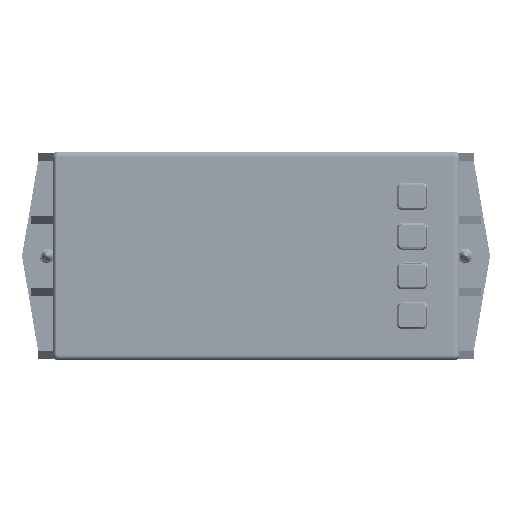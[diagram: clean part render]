
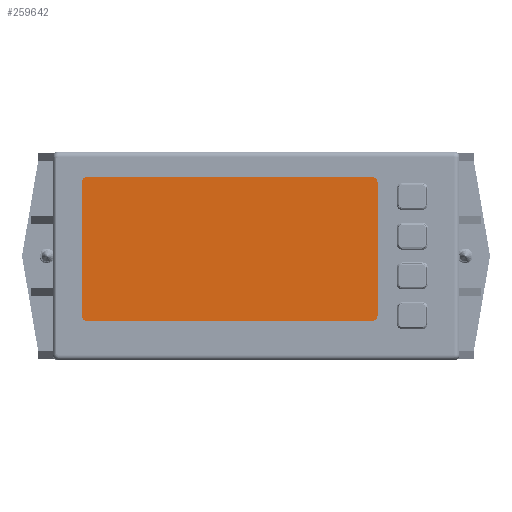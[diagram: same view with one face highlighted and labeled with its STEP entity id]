
A CAD part, front view. The second image highlights one B-rep face of the part: STEP entity #259642.
In plain terms, the highlighted planar face has unit normal (0, -1, 0).
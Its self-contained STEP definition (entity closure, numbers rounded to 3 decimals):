
#5034=CIRCLE('',#271628,1.016);
#5035=CIRCLE('',#271631,1.016);
#5036=CIRCLE('',#271634,1.016);
#5037=CIRCLE('',#271637,1.016);
#15881=ORIENTED_EDGE('',*,*,#70665,.T.);
#15882=ORIENTED_EDGE('',*,*,#70668,.T.);
#15883=ORIENTED_EDGE('',*,*,#70670,.T.);
#15884=ORIENTED_EDGE('',*,*,#70672,.T.);
#15885=ORIENTED_EDGE('',*,*,#70674,.T.);
#15886=ORIENTED_EDGE('',*,*,#70676,.T.);
#15887=ORIENTED_EDGE('',*,*,#70678,.T.);
#15888=ORIENTED_EDGE('',*,*,#70679,.T.);
#70665=EDGE_CURVE('',#98502,#98501,#5034,.T.);
#70668=EDGE_CURVE('',#98501,#98503,#117608,.T.);
#70670=EDGE_CURVE('',#98503,#98504,#5035,.T.);
#70672=EDGE_CURVE('',#98504,#98505,#117611,.T.);
#70674=EDGE_CURVE('',#98505,#98506,#5036,.T.);
#70676=EDGE_CURVE('',#98506,#98507,#117614,.T.);
#70678=EDGE_CURVE('',#98507,#98508,#5037,.T.);
#70679=EDGE_CURVE('',#98508,#98502,#117616,.T.);
#98501=VERTEX_POINT('',#347022);
#98502=VERTEX_POINT('',#347024);
#98503=VERTEX_POINT('',#347028);
#98504=VERTEX_POINT('',#347032);
#98505=VERTEX_POINT('',#347036);
#98506=VERTEX_POINT('',#347040);
#98507=VERTEX_POINT('',#347044);
#98508=VERTEX_POINT('',#347048);
#117608=LINE('',#347029,#141754);
#117611=LINE('',#347037,#141757);
#117614=LINE('',#347045,#141760);
#117616=LINE('',#347051,#141762);
#141754=VECTOR('',#291109,1000.);
#141757=VECTOR('',#291118,1000.);
#141760=VECTOR('',#291127,1000.);
#141762=VECTOR('',#291135,1000.);
#164792=EDGE_LOOP('',(#15881,#15882,#15883,#15884,#15885,#15886,#15887,
#15888));
#177469=FACE_BOUND('',#164792,.T.);
#189262=PLANE('',#271647);
#259642=ADVANCED_FACE('',(#177469),#189262,.T.);
#271628=AXIS2_PLACEMENT_3D('',#347023,#291103,#291104);
#271631=AXIS2_PLACEMENT_3D('',#347033,#291113,#291114);
#271634=AXIS2_PLACEMENT_3D('',#347041,#291122,#291123);
#271637=AXIS2_PLACEMENT_3D('',#347049,#291131,#291132);
#271647=AXIS2_PLACEMENT_3D('',#347068,#291160,#291161);
#291103=DIRECTION('',(0.,-1.,0.));
#291104=DIRECTION('',(1.,0.,0.));
#291109=DIRECTION('',(0.,0.,-1.));
#291113=DIRECTION('',(0.,-1.,0.));
#291114=DIRECTION('',(1.,0.,0.));
#291118=DIRECTION('',(1.,0.,0.));
#291122=DIRECTION('',(0.,-1.,0.));
#291123=DIRECTION('',(-1.,0.,0.));
#291127=DIRECTION('',(0.,0.,1.));
#291131=DIRECTION('',(0.,-1.,0.));
#291132=DIRECTION('',(1.,0.,0.));
#291135=DIRECTION('',(-1.,0.,0.));
#291160=DIRECTION('',(0.,-1.,0.));
#291161=DIRECTION('',(0.,0.,-1.));
#347022=CARTESIAN_POINT('',(-41.275,-2.537,17.653));
#347023=CARTESIAN_POINT('',(-40.259,-2.537,17.653));
#347024=CARTESIAN_POINT('',(-40.259,-2.537,18.669));
#347028=CARTESIAN_POINT('',(-41.275,-2.537,-14.351));
#347029=CARTESIAN_POINT('',(-41.275,-2.537,17.653));
#347032=CARTESIAN_POINT('',(-40.259,-2.537,-15.367));
#347033=CARTESIAN_POINT('',(-40.259,-2.537,-14.351));
#347036=CARTESIAN_POINT('',(28.067,-2.537,-15.367));
#347037=CARTESIAN_POINT('',(-40.259,-2.537,-15.367));
#347040=CARTESIAN_POINT('',(29.083,-2.537,-14.351));
#347041=CARTESIAN_POINT('',(28.067,-2.537,-14.351));
#347044=CARTESIAN_POINT('',(29.083,-2.537,17.653));
#347045=CARTESIAN_POINT('',(29.083,-2.537,-14.351));
#347048=CARTESIAN_POINT('',(28.067,-2.537,18.669));
#347049=CARTESIAN_POINT('',(28.067,-2.537,17.653));
#347051=CARTESIAN_POINT('',(28.067,-2.537,18.669));
#347068=CARTESIAN_POINT('',(-40.259,-2.537,17.653));
